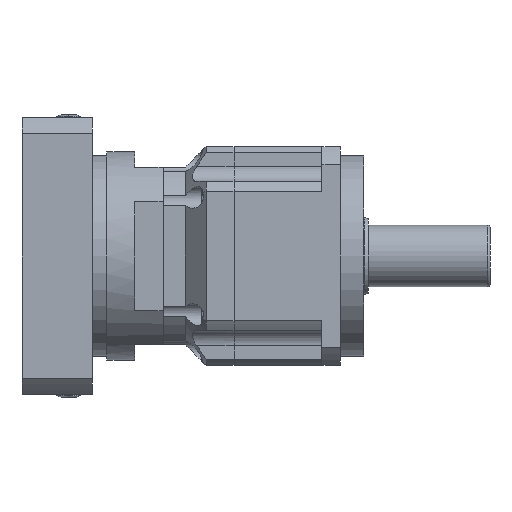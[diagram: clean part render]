
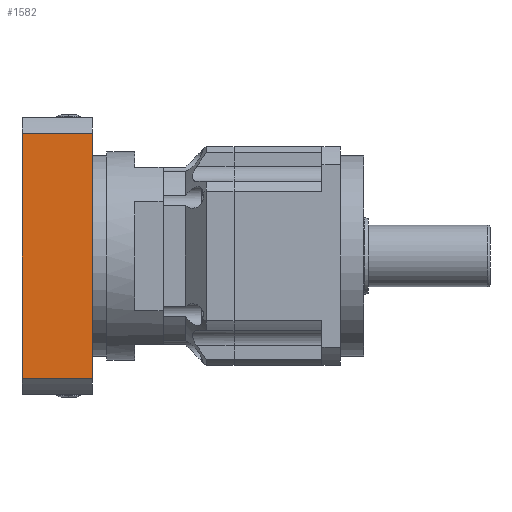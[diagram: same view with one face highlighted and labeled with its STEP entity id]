
A CAD part, front view. The second image highlights one B-rep face of the part: STEP entity #1582.
In plain terms, the highlighted planar face has unit normal (0, -1, 0).
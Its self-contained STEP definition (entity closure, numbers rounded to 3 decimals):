
#1345 = CARTESIAN_POINT ( 'NONE',  ( -92., -90., 87.617 ) ) ;
#1582 = ADVANCED_FACE ( 'NONE', ( #15173 ), #3022, .F. ) ;
#2126 = EDGE_LOOP ( 'NONE', ( #22337, #14276, #9193, #2860 ) ) ;
#2383 = EDGE_CURVE ( 'NONE', #4827, #21610, #6500, .T. ) ;
#2435 = VERTEX_POINT ( 'NONE', #14178 ) ;
#2860 = ORIENTED_EDGE ( 'NONE', *, *, #3870, .F. ) ;
#3022 = PLANE ( 'NONE',  #13781 ) ;
#3119 = CARTESIAN_POINT ( 'NONE',  ( -137.5, -90., 79.373 ) ) ;
#3162 = VECTOR ( 'NONE', #8430, 1000. ) ;
#3428 = CARTESIAN_POINT ( 'NONE',  ( -137.5, -90., -79.373 ) ) ;
#3870 = EDGE_CURVE ( 'NONE', #2435, #16410, #18948, .T. ) ;
#4323 = CARTESIAN_POINT ( 'NONE',  ( -92., -90., 79.373 ) ) ;
#4827 = VERTEX_POINT ( 'NONE', #3119 ) ;
#5548 = VECTOR ( 'NONE', #11250, 1000. ) ;
#5888 = CARTESIAN_POINT ( 'NONE',  ( -137.5, -90., 0. ) ) ;
#5941 = VECTOR ( 'NONE', #21109, 1000. ) ;
#6500 = LINE ( 'NONE', #19310, #5941 ) ;
#6542 = CARTESIAN_POINT ( 'NONE',  ( -92., -90., 87.617 ) ) ;
#7005 = CARTESIAN_POINT ( 'NONE',  ( -137.5, -90., -79.373 ) ) ;
#8430 = DIRECTION ( 'NONE',  ( 0., 0., -1. ) ) ;
#9193 = ORIENTED_EDGE ( 'NONE', *, *, #10713, .F. ) ;
#10135 = DIRECTION ( 'NONE',  ( 0., 0., 1. ) ) ;
#10278 = LINE ( 'NONE', #5888, #5548 ) ;
#10713 = EDGE_CURVE ( 'NONE', #16410, #4827, #10278, .T. ) ;
#11250 = DIRECTION ( 'NONE',  ( 0., 0., 1. ) ) ;
#13781 = AXIS2_PLACEMENT_3D ( 'NONE', #6542, #20767, #10135 ) ;
#14178 = CARTESIAN_POINT ( 'NONE',  ( -92., -90., -79.373 ) ) ;
#14276 = ORIENTED_EDGE ( 'NONE', *, *, #2383, .F. ) ;
#15173 = FACE_OUTER_BOUND ( 'NONE', #2126, .T. ) ;
#15829 = DIRECTION ( 'NONE',  ( -1., 0., 0. ) ) ;
#16410 = VERTEX_POINT ( 'NONE', #7005 ) ;
#18948 = LINE ( 'NONE', #3428, #19510 ) ;
#19310 = CARTESIAN_POINT ( 'NONE',  ( -137.5, -90., 79.373 ) ) ;
#19510 = VECTOR ( 'NONE', #15829, 1000. ) ;
#20767 = DIRECTION ( 'NONE',  ( 0., 1., 0. ) ) ;
#21109 = DIRECTION ( 'NONE',  ( 1., 0., 0. ) ) ;
#21286 = EDGE_CURVE ( 'NONE', #21610, #2435, #21489, .T. ) ;
#21489 = LINE ( 'NONE', #1345, #3162 ) ;
#21610 = VERTEX_POINT ( 'NONE', #4323 ) ;
#22337 = ORIENTED_EDGE ( 'NONE', *, *, #21286, .F. ) ;
